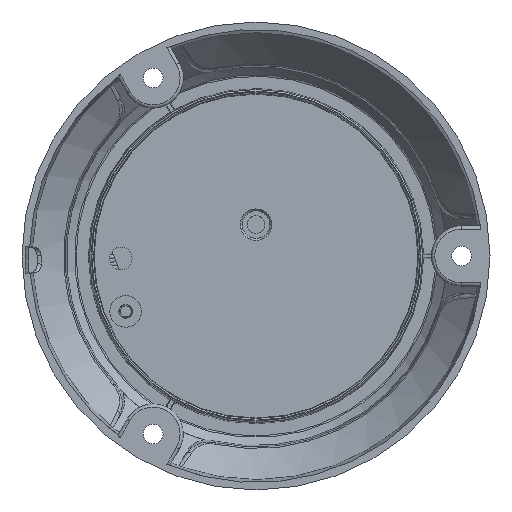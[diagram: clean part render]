
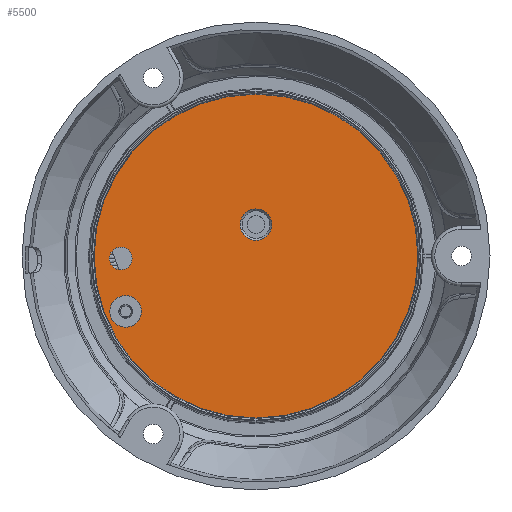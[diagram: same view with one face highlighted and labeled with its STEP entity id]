
A CAD part, top view. The second image highlights one B-rep face of the part: STEP entity #5500.
In plain terms, the highlighted planar face has unit normal (0, 0, 1).
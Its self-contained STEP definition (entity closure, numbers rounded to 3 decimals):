
#2914=FACE_BOUND('',#9261,.T.);
#2915=FACE_BOUND('',#9262,.T.);
#2916=FACE_BOUND('',#9263,.T.);
#2917=FACE_BOUND('',#9264,.T.);
#3064=PLANE('',#33988);
#5500=ADVANCED_FACE('',(#2914,#2915,#2916,#2917),#3064,.F.);
#9261=EDGE_LOOP('',(#16302));
#9262=EDGE_LOOP('',(#16303));
#9263=EDGE_LOOP('',(#16304));
#9264=EDGE_LOOP('',(#16305));
#16302=ORIENTED_EDGE('',*,*,#28854,.F.);
#16303=ORIENTED_EDGE('',*,*,#28853,.T.);
#16304=ORIENTED_EDGE('',*,*,#28795,.T.);
#16305=ORIENTED_EDGE('',*,*,#28855,.T.);
#25375=VERTEX_POINT('',#44723);
#25412=VERTEX_POINT('',#45012);
#25413=VERTEX_POINT('',#45015);
#25414=VERTEX_POINT('',#45017);
#28795=EDGE_CURVE('',#25375,#25375,#33323,.T.);
#28853=EDGE_CURVE('',#25412,#25412,#33343,.T.);
#28854=EDGE_CURVE('',#25413,#25413,#33344,.T.);
#28855=EDGE_CURVE('',#25414,#25414,#33345,.T.);
#33323=CIRCLE('',#33943,51.195);
#33343=CIRCLE('',#33984,5.);
#33344=CIRCLE('',#33986,4.975);
#33345=CIRCLE('',#33987,3.6);
#33943=AXIS2_PLACEMENT_3D('',#44722,#35751,#35752);
#33984=AXIS2_PLACEMENT_3D('',#45011,#35847,#35848);
#33986=AXIS2_PLACEMENT_3D('',#45014,#35851,#35852);
#33987=AXIS2_PLACEMENT_3D('',#45016,#35853,#35854);
#33988=AXIS2_PLACEMENT_3D('',#45018,#35855,#35856);
#35751=DIRECTION('',(0.,0.,1.));
#35752=DIRECTION('',(0.,-1.,0.));
#35847=DIRECTION('',(0.,0.,-1.));
#35848=DIRECTION('',(0.5,0.866,0.));
#35851=DIRECTION('',(0.,0.,1.));
#35852=DIRECTION('',(-1.,0.,0.));
#35853=DIRECTION('',(0.,0.,-1.));
#35854=DIRECTION('',(1.,0.,0.));
#35855=DIRECTION('',(0.,0.,-1.));
#35856=DIRECTION('',(0.017,-1.,0.));
#44722=CARTESIAN_POINT('',(0.,0.,75.913));
#44723=CARTESIAN_POINT('',(0.,-51.195,75.913));
#45011=CARTESIAN_POINT('',(-41.199,-17.488,75.913));
#45012=CARTESIAN_POINT('',(-38.699,-13.158,75.913));
#45014=CARTESIAN_POINT('',(0.,9.95,75.913));
#45015=CARTESIAN_POINT('',(-4.975,9.95,75.913));
#45016=CARTESIAN_POINT('',(-42.751,-0.746,75.913));
#45017=CARTESIAN_POINT('',(-39.151,-0.746,75.913));
#45018=CARTESIAN_POINT('',(-6.563,-62.204,75.913));
